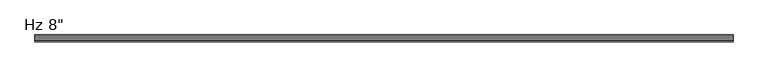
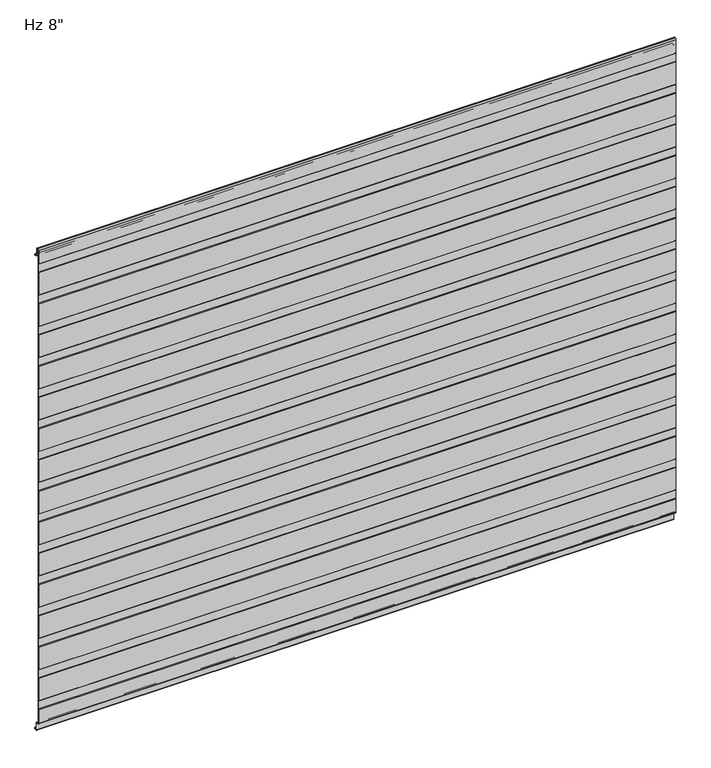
"""IFC4 building model written with IfcOpenShell, lengths in millimetres: plate geometry."""

from ifc_helpers import new_model, si_unit, frame, origin, place, context, project, spatial, polyline, circle_curve, source, transform, mapped, element, save
from ifc_brep_helpers import plane_surface, cylinder_surface, revolved_surface, advanced_brep


def plate_6934a9da(model_context):
    return source(origin(), model_context, "Body", "AdvancedBrep", [
        advanced_brep(
        [(-730.0, -203.2, 966.9508592), (-730.0, -203.2, 1021.5303137), (-730.0, -202.0088405, 1022.6028385), (-730.0, -202.0088405, 1041.5009546), (-730.0, -203.2, 1042.5734794), (-730.0, -203.2, 1097.152934), (-730.0, -202.0088405, 1098.2254588), (-730.0, -202.0088405, 1117.1235749), (-730.0, -203.1999956, 1118.1960958), (-730.0, -203.1999956, 1150.8100652), (-730.0, -200.2227271, 1153.7873337), (-730.0, -199.1806285, 1153.7873337), (-730.0, -196.20336, 1150.8100652), (-730.0, -196.20336, 1136.6216801), (-730.0, -194.6154834, 1135.0338036), (-730.0, -190.2950653, 1135.0338036), (-730.0, -188.7065979, 1133.3929042), (-730.0, -188.7065979, 1131.0482432), (-730.0, -189.7060718, 1131.0482432), (-730.0, -189.7060718, 1133.4253365), (-730.0, -190.2950653, 1134.0338037), (-730.0, -194.6154834, 1134.0338037), (-730.0, -197.20336, 1136.6216801), (-730.0, -197.20336, 1150.8100652), (-730.0, -199.1806285, 1152.7873337), (-730.0, -200.2227271, 1152.7873337), (-730.0, -202.1999956, 1150.8100652), (-730.0, -202.1999956, 1118.6385351), (-730.0, -201.0088405, 1117.5660142), (-730.0, -201.0088405, 1097.7830195), (-730.0, -202.2, 1096.7104947), (-730.0, -202.2, 1043.0159187), (-730.0, -201.0088405, 1041.9433939), (-730.0, -201.0088405, 1022.1603992), (-730.0, -202.2, 1021.0878744), (-730.0, -202.2, 967.3932985), (-730.0, -201.0088405, 966.3207736), (-730.0, -201.0088405, 946.537779), (-730.0, -202.2, 945.4652541), (-730.0, -202.2, 891.7706782), (-730.0, -201.0088405, 890.6981534), (-730.0, -201.0088405, 870.9151587), (-730.0, -202.2, 869.8426339), (-730.0, -202.2, 816.148058), (-730.0, -201.0088405, 815.0755331), (-730.0, -201.0088405, 795.2925384), (-730.0, -202.2, 794.2200136), (-730.0, -202.2, 740.5254377), (-730.0, -201.0088405, 739.4529129), (-730.0, -201.0088405, 719.6699182), (-730.0, -202.2, 718.5973933), (-730.0, -202.2, 664.9028174), (-730.0, -201.0088405, 663.8302926), (-730.0, -201.0088405, 644.0472979), (-730.0, -202.2, 642.9747731), (-730.0, -202.2, 589.2801972), (-730.0, -201.0088405, 588.2076723), (-730.0, -201.0088405, 568.4246776), (-730.0, -202.2, 567.3521528), (-730.0, -202.2, 513.6575769), (-730.0, -201.0088405, 512.5850521), (-730.0, -201.0088405, 492.8020574), (-730.0, -202.2, 491.7295325), (-730.0, -202.2, 438.0349566), (-730.0, -201.0088405, 436.9624318), (-730.0, -201.0088405, 417.1794371), (-730.0, -202.2, 416.1069123), (-730.0, -202.2, 362.4123364), (-730.0, -201.0088405, 361.3398115), (-730.0, -201.0088405, 341.5568169), (-730.0, -202.2, 340.484292), (-730.0, -202.2, 286.7897161), (-730.0, -201.0088405, 285.7171913), (-730.0, -201.0088405, 265.9341966), (-730.0, -202.2, 264.8616718), (-730.0, -202.2, 211.1670958), (-730.0, -201.0088405, 210.094571), (-730.0, -201.0088405, 190.3115763), (-730.0, -202.2, 189.2390515), (-730.0, -202.2, 135.5444756), (-730.0, -201.0088405, 134.4719507), (-730.0, -201.0088405, 114.6889561), (-730.0, -202.2, 113.6164312), (-730.0, -202.2, 59.9218553), (-730.0, -201.0088405, 58.8493305), (-730.0, -201.0088405, 39.0663358), (-730.0, -202.2, 37.993811), (-730.0, -202.2, 5.82722), (-730.0, -200.2227096, 3.8499526), (-730.0, -197.9308258, 3.8499526), (-730.0, -193.9535573, -0.1273159), (-730.0, -193.9535573, -15.7237419), (-730.0, -193.3656807, -16.3116185), (-730.0, -190.294132, -16.3116185), (-730.0, -189.7062555, -15.7237419), (-730.0, -189.7062555, -13.3687064), (-730.0, -188.7062555, -13.3687064), (-730.0, -188.7062555, -15.7237419), (-730.0, -190.294132, -17.3116185), (-730.0, -193.3656807, -17.3116185), (-730.0, -194.9535573, -15.7237419), (-730.0, -194.9535573, -0.1273159), (-730.0, -197.9308258, 2.8499526), (-730.0, -200.2227096, 2.8499526), (-730.0, -203.1999782, 5.8272193), (-730.0, -203.2, 38.4362503), (-730.0, -202.0088405, 39.5087751), (-730.0, -202.0088405, 58.4068912), (-730.0, -203.2, 59.479416), (-730.0, -203.2, 114.0588705), (-730.0, -202.0088405, 115.1313954), (-730.0, -202.0088405, 134.0295114), (-730.0, -203.2, 135.1020363), (-730.0, -203.2, 189.6814908), (-730.0, -202.0088405, 190.7540156), (-730.0, -202.0088405, 209.6521317), (-730.0, -203.2, 210.7246565), (-730.0, -203.2, 265.3041111), (-730.0, -202.0088405, 266.3766359), (-730.0, -202.0088405, 285.274752), (-730.0, -203.2, 286.3472768), (-730.0, -203.2, 340.9267313), (-730.0, -202.0088405, 341.9992562), (-730.0, -202.0088405, 360.8973722), (-730.0, -203.2, 361.9698971), (-730.0, -203.2, 416.5493516), (-730.0, -202.0088405, 417.6218764), (-730.0, -202.0088405, 436.5199925), (-730.0, -203.2, 437.5925173), (-730.0, -203.2, 492.1719719), (-730.0, -202.0088405, 493.2444967), (-730.0, -202.0088405, 512.1426127), (-730.0, -203.2, 513.2151376), (-730.0, -203.2, 567.7945921), (-730.0, -202.0088405, 568.867117), (-730.0, -202.0088405, 587.765233), (-730.0, -203.2, 588.8377578), (-730.0, -203.2, 643.4172124), (-730.0, -202.0088405, 644.4897372), (-730.0, -202.0088405, 663.3878533), (-730.0, -203.2, 664.4603781), (-730.0, -203.2, 719.0398327), (-730.0, -202.0088405, 720.1123575), (-730.0, -202.0088405, 739.0104735), (-730.0, -203.2, 740.0829984), (-730.0, -203.2, 794.6624529), (-730.0, -202.0088405, 795.7349778), (-730.0, -202.0088405, 814.6330938), (-730.0, -203.2, 815.7056186), (-730.0, -203.2, 870.2850732), (-730.0, -202.0088405, 871.357598), (-730.0, -202.0088405, 890.2557141), (-730.0, -203.2, 891.3282389), (-730.0, -203.2, 945.9076934), (-730.0, -202.0088405, 946.9802183), (-730.0, -202.0088405, 965.8783343), (730.0, -203.2, 966.9508592), (730.0, -202.0088405, 965.8783343), (730.0, -202.0088405, 946.9802183), (730.0, -203.2, 945.9076934), (730.0, -203.2, 891.3282389), (730.0, -202.0088405, 890.2557141), (730.0, -202.0088405, 871.357598), (730.0, -203.2, 870.2850732), (730.0, -203.2, 815.7056186), (730.0, -202.0088405, 814.6330938), (730.0, -202.0088405, 795.7349778), (730.0, -203.2, 794.6624529), (730.0, -203.2, 740.0829984), (730.0, -202.0088405, 739.0104735), (730.0, -202.0088405, 720.1123575), (730.0, -203.2, 719.0398327), (730.0, -203.2, 664.4603781), (730.0, -202.0088405, 663.3878533), (730.0, -202.0088405, 644.4897372), (730.0, -203.2, 643.4172124), (730.0, -203.2, 588.8377578), (730.0, -202.0088405, 587.765233), (730.0, -202.0088405, 568.867117), (730.0, -203.2, 567.7945921), (730.0, -203.2, 513.2151376), (730.0, -202.0088405, 512.1426127), (730.0, -202.0088405, 493.2444967), (730.0, -203.2, 492.1719719), (730.0, -203.2, 437.5925173), (730.0, -202.0088405, 436.5199925), (730.0, -202.0088405, 417.6218764), (730.0, -203.2, 416.5493516), (730.0, -203.2, 361.9698971), (730.0, -202.0088405, 360.8973722), (730.0, -202.0088405, 341.9992562), (730.0, -203.2, 340.9267313), (730.0, -203.2, 286.3472768), (730.0, -202.0088405, 285.274752), (730.0, -202.0088405, 266.3766359), (730.0, -203.2, 265.3041111), (730.0, -203.2, 210.7246565), (730.0, -202.0088405, 209.6521317), (730.0, -202.0088405, 190.7540156), (730.0, -203.2, 189.6814908), (730.0, -203.2, 135.1020363), (730.0, -202.0088405, 134.0295114), (730.0, -202.0088405, 115.1313954), (730.0, -203.2, 114.0588705), (730.0, -203.2, 59.479416), (730.0, -202.0088405, 58.4068912), (730.0, -202.0088405, 39.5087751), (730.0, -203.2, 38.4362503), (730.0, -203.2, 5.8272193), (730.0, -200.2227096, 2.8499526), (730.0, -197.9308258, 2.8499526), (730.0, -194.9535573, -0.1273159), (730.0, -194.9535573, -15.7237419), (730.0, -193.3656807, -17.3116185), (730.0, -190.294132, -17.3116185), (730.0, -188.7062555, -15.7237419), (730.0, -188.7062555, -13.3687064), (730.0, -189.7062555, -13.3687064), (730.0, -189.7062555, -15.7237419), (730.0, -190.294132, -16.3116185), (730.0, -193.3656807, -16.3116185), (730.0, -193.9535573, -15.7237419), (730.0, -193.9535573, -0.1273159), (730.0, -197.9308258, 3.8499526), (730.0, -200.2227096, 3.8499526), (730.0, -202.1999782, 5.82722), (730.0, -202.2, 37.993811), (730.0, -201.0088405, 39.0663358), (730.0, -201.0088405, 58.8493305), (730.0, -202.2, 59.9218553), (730.0, -202.2, 113.6164312), (730.0, -201.0088405, 114.6889561), (730.0, -201.0088405, 134.4719507), (730.0, -202.2, 135.5444756), (730.0, -202.2, 189.2390515), (730.0, -201.0088405, 190.3115763), (730.0, -201.0088405, 210.094571), (730.0, -202.2, 211.1670958), (730.0, -202.2, 264.8616718), (730.0, -201.0088405, 265.9341966), (730.0, -201.0088405, 285.7171913), (730.0, -202.2, 286.7897161), (730.0, -202.2, 340.484292), (730.0, -201.0088405, 341.5568169), (730.0, -201.0088405, 361.3398115), (730.0, -202.2, 362.4123364), (730.0, -202.2, 416.1069123), (730.0, -201.0088405, 417.1794371), (730.0, -201.0088405, 436.9624318), (730.0, -202.2, 438.0349566), (730.0, -202.2, 491.7295325), (730.0, -201.0088405, 492.8020574), (730.0, -201.0088405, 512.5850521), (730.0, -202.2, 513.6575769), (730.0, -202.2, 567.3521528), (730.0, -201.0088405, 568.4246776), (730.0, -201.0088405, 588.2076723), (730.0, -202.2, 589.2801972), (730.0, -202.2, 642.9747731), (730.0, -201.0088405, 644.0472979), (730.0, -201.0088405, 663.8302926), (730.0, -202.2, 664.9028174), (730.0, -202.2, 718.5973933), (730.0, -201.0088405, 719.6699182), (730.0, -201.0088405, 739.4529129), (730.0, -202.2, 740.5254377), (730.0, -202.2, 794.2200136), (730.0, -201.0088405, 795.2925384), (730.0, -201.0088405, 815.0755331), (730.0, -202.2, 816.148058), (730.0, -202.2, 869.8426339), (730.0, -201.0088405, 870.9151587), (730.0, -201.0088405, 890.6981534), (730.0, -202.2, 891.7706782), (730.0, -202.2, 945.4652541), (730.0, -201.0088405, 946.537779), (730.0, -201.0088405, 966.3207736), (730.0, -202.2, 967.3932985), (730.0, -202.2, 1021.0878744), (730.0, -201.0088405, 1022.1603992), (730.0, -201.0088405, 1041.9433939), (730.0, -202.2, 1043.0159187), (730.0, -202.2, 1096.7104947), (730.0, -201.0088405, 1097.7830195), (730.0, -201.0088405, 1117.5660142), (730.0, -202.1999956, 1118.6385351), (730.0, -202.1999956, 1150.8100652), (730.0, -200.2227271, 1152.7873337), (730.0, -199.1806285, 1152.7873337), (730.0, -197.20336, 1150.8100652), (730.0, -197.20336, 1136.6216801), (730.0, -194.6154834, 1134.0338036), (730.0, -190.2950653, 1134.0338037), (730.0, -189.7060718, 1133.4253365), (730.0, -189.7060718, 1131.0482432), (730.0, -188.7065979, 1131.0482432), (730.0, -188.7065979, 1133.3929042), (730.0, -190.2950653, 1135.0338037), (730.0, -194.6154834, 1135.0338036), (730.0, -196.20336, 1136.6216801), (730.0, -196.20336, 1150.8100652), (730.0, -199.1806285, 1153.7873337), (730.0, -200.2227271, 1153.7873337), (730.0, -203.1999956, 1150.8100652), (730.0, -203.1999956, 1118.1960958), (730.0, -202.0088405, 1117.1235749), (730.0, -202.0088405, 1098.2254588), (730.0, -203.2, 1097.152934), (730.0, -203.2, 1042.5734794), (730.0, -202.0088405, 1041.5009546), (730.0, -202.0088405, 1022.6028385), (730.0, -203.2, 1021.5303137)],
        [
            (0, 1),
            (1, 2),
            (2, 3),
            (3, 4),
            (4, 5),
            (5, 6),
            (6, 7),
            (7, 8),
            (8, 9),
            (9, 10, circle_curve(frame((-730.0, -200.2227271, 1150.8100652), z_axis=(-1.0, 0.0, 0.0), x_axis=(0.0, 0.0, -1.0)), 2.9772685)),
            (10, 11),
            (11, 12, circle_curve(frame((-730.0, -199.1806285, 1150.8100652), z_axis=(-1.0, 0.0, 0.0), x_axis=(0.0, 0.0, -1.0)), 2.9772685)),
            (12, 13),
            (13, 14, circle_curve(frame((-730.0, -194.6154834, 1136.6216801), z_axis=(1.0, 0.0, 0.0), x_axis=(0.0, 0.0, -1.0)), 1.5878765)),
            (14, 15),
            (15, 16, circle_curve(frame((-730.0, -190.2950653, 1133.4444985), z_axis=(-1.0, 0.0, 0.0), x_axis=(0.0, 0.0, -1.0)), 1.5893052)),
            (16, 17),
            (17, 18),
            (18, 19),
            (19, 20, circle_curve(frame((-730.0, -190.2950653, 1133.4444985), z_axis=(1.0, 0.0, 0.0), x_axis=(0.0, 0.0, -1.0)), 0.5893052)),
            (20, 21),
            (21, 22, circle_curve(frame((-730.0, -194.6154834, 1136.6216801), z_axis=(-1.0, 0.0, 0.0), x_axis=(0.0, 0.0, -1.0)), 2.5878765)),
            (22, 23),
            (23, 24, circle_curve(frame((-730.0, -199.1806285, 1150.8100652), z_axis=(1.0, 0.0, 0.0), x_axis=(0.0, 0.0, -1.0)), 1.9772685)),
            (24, 25),
            (25, 26, circle_curve(frame((-730.0, -200.2227271, 1150.8100652), z_axis=(1.0, 0.0, 0.0), x_axis=(0.0, 0.0, -1.0)), 1.9772685)),
            (26, 27),
            (27, 28),
            (28, 29),
            (29, 30),
            (30, 31),
            (31, 32),
            (32, 33),
            (33, 34),
            (34, 35),
            (35, 36),
            (36, 37),
            (37, 38),
            (38, 39),
            (39, 40),
            (40, 41),
            (41, 42),
            (42, 43),
            (43, 44),
            (44, 45),
            (45, 46),
            (46, 47),
            (47, 48),
            (48, 49),
            (49, 50),
            (50, 51),
            (51, 52),
            (52, 53),
            (53, 54),
            (54, 55),
            (55, 56),
            (56, 57),
            (57, 58),
            (58, 59),
            (59, 60),
            (60, 61),
            (61, 62),
            (62, 63),
            (63, 64),
            (64, 65),
            (65, 66),
            (66, 67),
            (67, 68),
            (68, 69),
            (69, 70),
            (70, 71),
            (71, 72),
            (72, 73),
            (73, 74),
            (74, 75),
            (75, 76),
            (76, 77),
            (77, 78),
            (78, 79),
            (79, 80),
            (80, 81),
            (81, 82),
            (82, 83),
            (83, 84),
            (84, 85),
            (85, 86),
            (86, 87),
            (87, 88, circle_curve(frame((-730.0, -200.2227096, 5.8272212), z_axis=(1.0, 0.0, 0.0), x_axis=(0.0, 0.0, -1.0)), 1.9772685)),
            (88, 89),
            (89, 90, circle_curve(frame((-730.0, -197.9308258, -0.1273159), z_axis=(-1.0, 0.0, 0.0), x_axis=(0.0, 0.0, -1.0)), 3.9772685)),
            (90, 91),
            (91, 92, circle_curve(frame((-730.0, -193.3656807, -15.7237419), z_axis=(1.0, 0.0, 0.0), x_axis=(0.0, 0.0, -1.0)), 0.5878765)),
            (92, 93),
            (93, 94, circle_curve(frame((-730.0, -190.294132, -15.7237419), z_axis=(1.0, 0.0, 0.0), x_axis=(0.0, 0.0, -1.0)), 0.5878765)),
            (94, 95),
            (95, 96),
            (96, 97),
            (97, 98, circle_curve(frame((-730.0, -190.294132, -15.7237419), z_axis=(-1.0, 0.0, 0.0), x_axis=(0.0, 0.0, -1.0)), 1.5878765)),
            (98, 99),
            (99, 100, circle_curve(frame((-730.0, -193.3656807, -15.7237419), z_axis=(-1.0, 0.0, 0.0), x_axis=(0.0, 0.0, -1.0)), 1.5878765)),
            (100, 101),
            (101, 102, circle_curve(frame((-730.0, -197.9308258, -0.1273159), z_axis=(1.0, 0.0, 0.0), x_axis=(0.0, 0.0, -1.0)), 2.9772685)),
            (102, 103),
            (103, 104, circle_curve(frame((-730.0, -200.2227096, 5.8272211), z_axis=(-1.0, 0.0, 0.0), x_axis=(0.0, 0.0, -1.0)), 2.9772685)),
            (104, 105),
            (105, 106),
            (106, 107),
            (107, 108),
            (108, 109),
            (109, 110),
            (110, 111),
            (111, 112),
            (112, 113),
            (113, 114),
            (114, 115),
            (115, 116),
            (116, 117),
            (117, 118),
            (118, 119),
            (119, 120),
            (120, 121),
            (121, 122),
            (122, 123),
            (123, 124),
            (124, 125),
            (125, 126),
            (126, 127),
            (127, 128),
            (128, 129),
            (129, 130),
            (130, 131),
            (131, 132),
            (132, 133),
            (133, 134),
            (134, 135),
            (135, 136),
            (136, 137),
            (137, 138),
            (138, 139),
            (139, 140),
            (140, 141),
            (141, 142),
            (142, 143),
            (143, 144),
            (144, 145),
            (145, 146),
            (146, 147),
            (147, 148),
            (148, 149),
            (149, 150),
            (150, 151),
            (151, 152),
            (152, 153),
            (153, 154),
            (154, 155),
            (155, 0),
            (156, 157),
            (157, 158),
            (158, 159),
            (159, 160),
            (160, 161),
            (161, 162),
            (162, 163),
            (163, 164),
            (164, 165),
            (165, 166),
            (166, 167),
            (167, 168),
            (168, 169),
            (169, 170),
            (170, 171),
            (171, 172),
            (172, 173),
            (173, 174),
            (174, 175),
            (175, 176),
            (176, 177),
            (177, 178),
            (178, 179),
            (179, 180),
            (180, 181),
            (181, 182),
            (182, 183),
            (183, 184),
            (184, 185),
            (185, 186),
            (186, 187),
            (187, 188),
            (188, 189),
            (189, 190),
            (190, 191),
            (191, 192),
            (192, 193),
            (193, 194),
            (194, 195),
            (195, 196),
            (196, 197),
            (197, 198),
            (198, 199),
            (199, 200),
            (200, 201),
            (201, 202),
            (202, 203),
            (203, 204),
            (204, 205),
            (205, 206),
            (206, 207),
            (207, 208),
            (208, 209, circle_curve(frame((730.0, -200.2227096, 5.8272211), z_axis=(1.0, 0.0, 0.0), x_axis=(0.0, 0.0, -1.0)), 2.9772685)),
            (209, 210),
            (210, 211, circle_curve(frame((730.0, -197.9308258, -0.1273159), z_axis=(-1.0, 0.0, 0.0), x_axis=(0.0, 0.0, -1.0)), 2.9772685)),
            (211, 212),
            (212, 213, circle_curve(frame((730.0, -193.3656807, -15.7237419), z_axis=(1.0, 0.0, 0.0), x_axis=(0.0, 0.0, -1.0)), 1.5878765)),
            (213, 214),
            (214, 215, circle_curve(frame((730.0, -190.294132, -15.7237419), z_axis=(1.0, 0.0, 0.0), x_axis=(0.0, 0.0, -1.0)), 1.5878765)),
            (215, 216),
            (216, 217),
            (217, 218),
            (218, 219, circle_curve(frame((730.0, -190.294132, -15.7237419), z_axis=(-1.0, 0.0, 0.0), x_axis=(0.0, 0.0, -1.0)), 0.5878765)),
            (219, 220),
            (220, 221, circle_curve(frame((730.0, -193.3656807, -15.7237419), z_axis=(-1.0, 0.0, 0.0), x_axis=(0.0, 0.0, -1.0)), 0.5878765)),
            (221, 222),
            (222, 223, circle_curve(frame((730.0, -197.9308258, -0.1273159), z_axis=(1.0, 0.0, 0.0), x_axis=(0.0, 0.0, -1.0)), 3.9772685)),
            (223, 224),
            (224, 225, circle_curve(frame((730.0, -200.2227096, 5.8272212), z_axis=(-1.0, 0.0, 0.0), x_axis=(0.0, 0.0, -1.0)), 1.9772685)),
            (225, 226),
            (226, 227),
            (227, 228),
            (228, 229),
            (229, 230),
            (230, 231),
            (231, 232),
            (232, 233),
            (233, 234),
            (234, 235),
            (235, 236),
            (236, 237),
            (237, 238),
            (238, 239),
            (239, 240),
            (240, 241),
            (241, 242),
            (242, 243),
            (243, 244),
            (244, 245),
            (245, 246),
            (246, 247),
            (247, 248),
            (248, 249),
            (249, 250),
            (250, 251),
            (251, 252),
            (252, 253),
            (253, 254),
            (254, 255),
            (255, 256),
            (256, 257),
            (257, 258),
            (258, 259),
            (259, 260),
            (260, 261),
            (261, 262),
            (262, 263),
            (263, 264),
            (264, 265),
            (265, 266),
            (266, 267),
            (267, 268),
            (268, 269),
            (269, 270),
            (270, 271),
            (271, 272),
            (272, 273),
            (273, 274),
            (274, 275),
            (275, 276),
            (276, 277),
            (277, 278),
            (278, 279),
            (279, 280),
            (280, 281),
            (281, 282),
            (282, 283),
            (283, 284),
            (284, 285),
            (285, 286),
            (286, 287, circle_curve(frame((730.0, -200.2227271, 1150.8100652), z_axis=(-1.0, 0.0, 0.0), x_axis=(0.0, 0.0, -1.0)), 1.9772685)),
            (287, 288),
            (288, 289, circle_curve(frame((730.0, -199.1806285, 1150.8100652), z_axis=(-1.0, 0.0, 0.0), x_axis=(0.0, 0.0, -1.0)), 1.9772685)),
            (289, 290),
            (290, 291, circle_curve(frame((730.0, -194.6154834, 1136.6216801), z_axis=(1.0, 0.0, 0.0), x_axis=(0.0, 0.0, -1.0)), 2.5878765)),
            (291, 292),
            (292, 293, circle_curve(frame((730.0, -190.2950653, 1133.4444985), z_axis=(-1.0, 0.0, 0.0), x_axis=(0.0, 0.0, -1.0)), 0.5893052)),
            (293, 294),
            (294, 295),
            (295, 296),
            (296, 297, circle_curve(frame((730.0, -190.2950653, 1133.4444985), z_axis=(1.0, 0.0, 0.0), x_axis=(0.0, 0.0, -1.0)), 1.5893052)),
            (297, 298),
            (298, 299, circle_curve(frame((730.0, -194.6154834, 1136.6216801), z_axis=(-1.0, 0.0, 0.0), x_axis=(0.0, 0.0, -1.0)), 1.5878765)),
            (299, 300),
            (300, 301, circle_curve(frame((730.0, -199.1806285, 1150.8100652), z_axis=(1.0, 0.0, 0.0), x_axis=(0.0, 0.0, -1.0)), 2.9772685)),
            (301, 302),
            (302, 303, circle_curve(frame((730.0, -200.2227271, 1150.8100652), z_axis=(1.0, 0.0, 0.0), x_axis=(0.0, 0.0, -1.0)), 2.9772685)),
            (303, 304),
            (304, 305),
            (305, 306),
            (306, 307),
            (307, 308),
            (308, 309),
            (309, 310),
            (310, 311),
            (311, 156),
            (155, 157),
            (156, 0),
            (154, 158),
            (153, 159),
            (152, 160),
            (151, 161),
            (150, 162),
            (149, 163),
            (148, 164),
            (147, 165),
            (146, 166),
            (145, 167),
            (144, 168),
            (143, 169),
            (142, 170),
            (141, 171),
            (140, 172),
            (139, 173),
            (138, 174),
            (137, 175),
            (136, 176),
            (135, 177),
            (134, 178),
            (133, 179),
            (132, 180),
            (131, 181),
            (130, 182),
            (129, 183),
            (128, 184),
            (127, 185),
            (126, 186),
            (125, 187),
            (124, 188),
            (123, 189),
            (122, 190),
            (121, 191),
            (120, 192),
            (119, 193),
            (118, 194),
            (117, 195),
            (116, 196),
            (115, 197),
            (114, 198),
            (113, 199),
            (112, 200),
            (111, 201),
            (110, 202),
            (109, 203),
            (108, 204),
            (107, 205),
            (106, 206),
            (105, 207),
            (104, 208),
            (103, 209),
            (102, 210),
            (101, 211),
            (100, 212),
            (99, 213),
            (98, 214),
            (97, 215),
            (96, 216),
            (95, 217),
            (94, 218),
            (93, 219),
            (92, 220),
            (91, 221),
            (90, 222),
            (89, 223),
            (88, 224),
            (87, 225),
            (86, 226),
            (85, 227),
            (84, 228),
            (83, 229),
            (82, 230),
            (81, 231),
            (80, 232),
            (79, 233),
            (78, 234),
            (77, 235),
            (76, 236),
            (75, 237),
            (74, 238),
            (73, 239),
            (72, 240),
            (71, 241),
            (70, 242),
            (69, 243),
            (68, 244),
            (67, 245),
            (66, 246),
            (65, 247),
            (64, 248),
            (63, 249),
            (62, 250),
            (61, 251),
            (60, 252),
            (59, 253),
            (58, 254),
            (57, 255),
            (56, 256),
            (55, 257),
            (54, 258),
            (53, 259),
            (52, 260),
            (51, 261),
            (50, 262),
            (49, 263),
            (48, 264),
            (47, 265),
            (46, 266),
            (45, 267),
            (44, 268),
            (43, 269),
            (42, 270),
            (41, 271),
            (40, 272),
            (39, 273),
            (38, 274),
            (37, 275),
            (36, 276),
            (35, 277),
            (34, 278),
            (33, 279),
            (32, 280),
            (31, 281),
            (30, 282),
            (29, 283),
            (28, 284),
            (27, 285),
            (26, 286),
            (25, 287),
            (24, 288),
            (23, 289),
            (22, 290),
            (21, 291),
            (20, 292),
            (19, 293),
            (18, 294),
            (17, 295),
            (16, 296),
            (15, 297),
            (14, 298),
            (13, 299),
            (12, 300),
            (11, 301),
            (10, 302),
            (9, 303),
            (8, 304),
            (7, 305),
            (6, 306),
            (5, 307),
            (4, 308),
            (3, 309),
            (2, 310),
            (1, 311),
        ],
        [
            plane_surface(frame((-730.0, -203.2, 576.2625), z_axis=(-1.0, 0.0, 0.0), x_axis=(0.0, -1.0, 0.0))),
            plane_surface(frame((730.0, -203.2, 576.2625), z_axis=(1.0, 0.0, 0.0), x_axis=(0.0, -1.0, 0.0))),
            plane_surface(frame((-730.0, -203.2, 966.9508592), z_axis=(0.0, -0.6691306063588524, -0.7431448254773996), x_axis=(1.0, 0.0, 0.0))),
            plane_surface(frame((-730.0, -202.0088405, 965.8783343), z_axis=(0.0, -1.0, 0.0), x_axis=(1.0, 0.0, 0.0))),
            plane_surface(frame((-730.0, -202.0088405, 946.9802183), z_axis=(0.0, -0.6691306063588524, 0.7431448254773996), x_axis=(1.0, 0.0, 0.0))),
            plane_surface(frame((-730.0, -203.2, 945.9076934), z_axis=(0.0, -1.0, 0.0), x_axis=(1.0, 0.0, 0.0))),
            plane_surface(frame((-730.0, -203.2, 891.3282389), z_axis=(0.0, -0.6691306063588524, -0.7431448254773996), x_axis=(1.0, 0.0, 0.0))),
            plane_surface(frame((-730.0, -202.0088405, 890.2557141), z_axis=(0.0, -1.0, 0.0), x_axis=(1.0, 0.0, 0.0))),
            plane_surface(frame((-730.0, -202.0088405, 871.357598), z_axis=(0.0, -0.6691306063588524, 0.7431448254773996), x_axis=(1.0, 0.0, 0.0))),
            plane_surface(frame((-730.0, -203.2, 870.2850732), z_axis=(0.0, -1.0, 0.0), x_axis=(1.0, 0.0, 0.0))),
            plane_surface(frame((-730.0, -203.2, 815.7056186), z_axis=(0.0, -0.6691306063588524, -0.7431448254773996), x_axis=(1.0, 0.0, 0.0))),
            plane_surface(frame((-730.0, -202.0088405, 814.6330938), z_axis=(0.0, -1.0, 0.0), x_axis=(1.0, 0.0, 0.0))),
            plane_surface(frame((-730.0, -202.0088405, 795.7349778), z_axis=(0.0, -0.6691306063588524, 0.7431448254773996), x_axis=(1.0, 0.0, 0.0))),
            plane_surface(frame((-730.0, -203.2, 794.6624529), z_axis=(0.0, -1.0, 0.0), x_axis=(1.0, 0.0, 0.0))),
            plane_surface(frame((-730.0, -203.2, 740.0829984), z_axis=(0.0, -0.6691306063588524, -0.7431448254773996), x_axis=(1.0, 0.0, 0.0))),
            plane_surface(frame((-730.0, -202.0088405, 739.0104735), z_axis=(0.0, -1.0, 0.0), x_axis=(1.0, 0.0, 0.0))),
            plane_surface(frame((-730.0, -202.0088405, 720.1123575), z_axis=(0.0, -0.6691306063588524, 0.7431448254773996), x_axis=(1.0, 0.0, 0.0))),
            plane_surface(frame((-730.0, -203.2, 719.0398327), z_axis=(0.0, -1.0, 0.0), x_axis=(1.0, 0.0, 0.0))),
            plane_surface(frame((-730.0, -203.2, 664.4603781), z_axis=(0.0, -0.6691306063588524, -0.7431448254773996), x_axis=(1.0, 0.0, 0.0))),
            plane_surface(frame((-730.0, -202.0088405, 663.3878533), z_axis=(0.0, -1.0, 0.0), x_axis=(1.0, 0.0, 0.0))),
            plane_surface(frame((-730.0, -202.0088405, 644.4897372), z_axis=(0.0, -0.6691306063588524, 0.7431448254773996), x_axis=(1.0, 0.0, 0.0))),
            plane_surface(frame((-730.0, -203.2, 643.4172124), z_axis=(0.0, -1.0, 0.0), x_axis=(1.0, 0.0, 0.0))),
            plane_surface(frame((-730.0, -203.2, 588.8377578), z_axis=(0.0, -0.6691306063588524, -0.7431448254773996), x_axis=(1.0, 0.0, 0.0))),
            plane_surface(frame((-730.0, -202.0088405, 587.765233), z_axis=(0.0, -1.0, 0.0), x_axis=(1.0, 0.0, 0.0))),
            plane_surface(frame((-730.0, -202.0088405, 568.867117), z_axis=(0.0, -0.6691306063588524, 0.7431448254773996), x_axis=(1.0, 0.0, 0.0))),
            plane_surface(frame((-730.0, -203.2, 567.7945921), z_axis=(0.0, -1.0, 0.0), x_axis=(1.0, 0.0, 0.0))),
            plane_surface(frame((-730.0, -203.2, 513.2151376), z_axis=(0.0, -0.6691306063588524, -0.7431448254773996), x_axis=(1.0, 0.0, 0.0))),
            plane_surface(frame((-730.0, -202.0088405, 512.1426127), z_axis=(0.0, -1.0, 0.0), x_axis=(1.0, 0.0, 0.0))),
            plane_surface(frame((-730.0, -202.0088405, 493.2444967), z_axis=(0.0, -0.6691306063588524, 0.7431448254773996), x_axis=(1.0, 0.0, 0.0))),
            plane_surface(frame((-730.0, -203.2, 492.1719719), z_axis=(0.0, -1.0, 0.0), x_axis=(1.0, 0.0, 0.0))),
            plane_surface(frame((-730.0, -203.2, 437.5925173), z_axis=(0.0, -0.6691306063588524, -0.7431448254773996), x_axis=(1.0, 0.0, 0.0))),
            plane_surface(frame((-730.0, -202.0088405, 436.5199925), z_axis=(0.0, -1.0, 0.0), x_axis=(1.0, 0.0, 0.0))),
            plane_surface(frame((-730.0, -202.0088405, 417.6218764), z_axis=(0.0, -0.6691306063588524, 0.7431448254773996), x_axis=(1.0, 0.0, 0.0))),
            plane_surface(frame((-730.0, -203.2, 416.5493516), z_axis=(0.0, -1.0, 0.0), x_axis=(1.0, 0.0, 0.0))),
            plane_surface(frame((-730.0, -203.2, 361.9698971), z_axis=(0.0, -0.6691306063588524, -0.7431448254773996), x_axis=(1.0, 0.0, 0.0))),
            plane_surface(frame((-730.0, -202.0088405, 360.8973722), z_axis=(0.0, -1.0, 0.0), x_axis=(1.0, 0.0, 0.0))),
            plane_surface(frame((-730.0, -202.0088405, 341.9992562), z_axis=(0.0, -0.6691306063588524, 0.7431448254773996), x_axis=(1.0, 0.0, 0.0))),
            plane_surface(frame((-730.0, -203.2, 340.9267313), z_axis=(0.0, -1.0, 0.0), x_axis=(1.0, 0.0, 0.0))),
            plane_surface(frame((-730.0, -203.2, 286.3472768), z_axis=(0.0, -0.6691306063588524, -0.7431448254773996), x_axis=(1.0, 0.0, 0.0))),
            plane_surface(frame((-730.0, -202.0088405, 285.274752), z_axis=(0.0, -1.0, 0.0), x_axis=(1.0, 0.0, 0.0))),
            plane_surface(frame((-730.0, -202.0088405, 266.3766359), z_axis=(0.0, -0.6691306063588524, 0.7431448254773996), x_axis=(1.0, 0.0, 0.0))),
            plane_surface(frame((-730.0, -203.2, 265.3041111), z_axis=(0.0, -1.0, 0.0), x_axis=(1.0, 0.0, 0.0))),
            plane_surface(frame((-730.0, -203.2, 210.7246565), z_axis=(0.0, -0.6691306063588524, -0.7431448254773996), x_axis=(1.0, 0.0, 0.0))),
            plane_surface(frame((-730.0, -202.0088405, 209.6521317), z_axis=(0.0, -1.0, 0.0), x_axis=(1.0, 0.0, 0.0))),
            plane_surface(frame((-730.0, -202.0088405, 190.7540156), z_axis=(0.0, -0.6691306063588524, 0.7431448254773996), x_axis=(1.0, 0.0, 0.0))),
            plane_surface(frame((-730.0, -203.2, 189.6814908), z_axis=(0.0, -1.0, 0.0), x_axis=(1.0, 0.0, 0.0))),
            plane_surface(frame((-730.0, -203.2, 135.1020363), z_axis=(0.0, -0.6691306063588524, -0.7431448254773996), x_axis=(1.0, 0.0, 0.0))),
            plane_surface(frame((-730.0, -202.0088405, 134.0295114), z_axis=(0.0, -1.0, 0.0), x_axis=(1.0, 0.0, 0.0))),
            plane_surface(frame((-730.0, -202.0088405, 115.1313954), z_axis=(0.0, -0.6691306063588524, 0.7431448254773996), x_axis=(1.0, 0.0, 0.0))),
            plane_surface(frame((-730.0, -203.2, 114.0588705), z_axis=(0.0, -1.0, 0.0), x_axis=(1.0, 0.0, 0.0))),
            plane_surface(frame((-730.0, -203.2, 59.479416), z_axis=(0.0, -0.6691306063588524, -0.7431448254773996), x_axis=(1.0, 0.0, 0.0))),
            plane_surface(frame((-730.0, -202.0088405, 58.4068912), z_axis=(0.0, -1.0, 0.0), x_axis=(1.0, 0.0, 0.0))),
            plane_surface(frame((-730.0, -202.0088405, 39.5087751), z_axis=(0.0, -0.6691306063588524, 0.7431448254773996), x_axis=(1.0, 0.0, 0.0))),
            plane_surface(frame((-730.0, -203.2, 38.4362503), z_axis=(0.0, -1.0, 0.0), x_axis=(1.0, 0.0, 0.0))),
            cylinder_surface(frame((-730.0, -200.2227096, 5.8272211), z_axis=(-1.0, 0.0, 0.0), x_axis=(0.0, 0.0, -1.0)), 2.9772685),
            plane_surface(frame((-730.0, -200.2227096, 2.8499526), z_axis=(0.0, 0.0, -1.0), x_axis=(1.0, 0.0, 0.0))),
            revolved_surface(polyline([(730.0, -197.9308258, -3.1045844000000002), (-730.0, -197.9308258, -3.1045844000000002)]), (-730.0, -197.9308258, -0.1273159), (1.0, 0.0, 0.0)),
            plane_surface(frame((-730.0, -194.9535573, -0.1273159), z_axis=(0.0, -1.0, 0.0), x_axis=(1.0, 0.0, 0.0))),
            cylinder_surface(frame((-730.0, -193.3656807, -15.7237419), z_axis=(-1.0, 0.0, 0.0), x_axis=(0.0, 0.0, -1.0)), 1.5878765),
            plane_surface(frame((-730.0, -193.3656807, -17.3116185), z_axis=(0.0, 0.0, -1.0), x_axis=(1.0, 0.0, 0.0))),
            cylinder_surface(frame((-730.0, -190.294132, -15.7237419), z_axis=(-1.0, 0.0, 0.0), x_axis=(0.0, 0.0, -1.0)), 1.5878765),
            plane_surface(frame((-730.0, -188.7062555, -15.7237419), z_axis=(0.0, 1.0, 0.0), x_axis=(1.0, 0.0, 0.0))),
            plane_surface(frame((-730.0, -188.7062555, -13.3687064), z_axis=(0.0, 0.0, 1.0), x_axis=(1.0, 0.0, 0.0))),
            plane_surface(frame((-730.0, -189.7062555, -13.3687064), z_axis=(0.0, -1.0, 0.0), x_axis=(1.0, 0.0, 0.0))),
            revolved_surface(polyline([(730.0, -190.294132, -16.3116184), (-730.0, -190.294132, -16.3116184)]), (-730.0, -190.294132, -15.7237419), (1.0, 0.0, 0.0)),
            plane_surface(frame((-730.0, -190.294132, -16.3116185), z_axis=(0.0, 0.0, 1.0), x_axis=(1.0, 0.0, 0.0))),
            revolved_surface(polyline([(730.0, -193.3656807, -16.3116184), (-730.0, -193.3656807, -16.3116184)]), (-730.0, -193.3656807, -15.7237419), (1.0, 0.0, 0.0)),
            plane_surface(frame((-730.0, -193.9535573, -15.7237419), z_axis=(0.0, 1.0, 0.0), x_axis=(1.0, 0.0, 0.0))),
            cylinder_surface(frame((-730.0, -197.9308258, -0.1273159), z_axis=(-1.0, 0.0, 0.0), x_axis=(0.0, 0.0, -1.0)), 3.9772685),
            plane_surface(frame((-730.0, -197.9308258, 3.8499526), z_axis=(0.0, 0.0, 1.0), x_axis=(1.0, 0.0, 0.0))),
            revolved_surface(polyline([(730.0, -200.2227096, 3.8499527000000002), (-730.0, -200.2227096, 3.8499527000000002)]), (-730.0, -200.2227096, 5.8272212), (1.0, 0.0, 0.0)),
            plane_surface(frame((-730.0, -202.2, 5.82722), z_axis=(0.0, 1.0, 0.0), x_axis=(1.0, 0.0, 0.0))),
            plane_surface(frame((-730.0, -202.2, 37.993811), z_axis=(0.0, 0.6691306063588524, -0.7431448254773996), x_axis=(1.0, 0.0, 0.0))),
            plane_surface(frame((-730.0, -201.0088405, 39.0663358), z_axis=(0.0, 1.0, 0.0), x_axis=(1.0, 0.0, 0.0))),
            plane_surface(frame((-730.0, -201.0088405, 58.8493305), z_axis=(0.0, 0.6691306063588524, 0.7431448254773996), x_axis=(1.0, 0.0, 0.0))),
            plane_surface(frame((-730.0, -202.2, 59.9218553), z_axis=(0.0, 1.0, 0.0), x_axis=(1.0, 0.0, 0.0))),
            plane_surface(frame((-730.0, -202.2, 113.6164312), z_axis=(0.0, 0.6691306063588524, -0.7431448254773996), x_axis=(1.0, 0.0, 0.0))),
            plane_surface(frame((-730.0, -201.0088405, 114.6889561), z_axis=(0.0, 1.0, 0.0), x_axis=(1.0, 0.0, 0.0))),
            plane_surface(frame((-730.0, -201.0088405, 134.4719507), z_axis=(0.0, 0.6691306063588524, 0.7431448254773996), x_axis=(1.0, 0.0, 0.0))),
            plane_surface(frame((-730.0, -202.2, 135.5444756), z_axis=(0.0, 1.0, 0.0), x_axis=(1.0, 0.0, 0.0))),
            plane_surface(frame((-730.0, -202.2, 189.2390515), z_axis=(0.0, 0.6691306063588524, -0.7431448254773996), x_axis=(1.0, 0.0, 0.0))),
            plane_surface(frame((-730.0, -201.0088405, 190.3115763), z_axis=(0.0, 1.0, 0.0), x_axis=(1.0, 0.0, 0.0))),
            plane_surface(frame((-730.0, -201.0088405, 210.094571), z_axis=(0.0, 0.6691306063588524, 0.7431448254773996), x_axis=(1.0, 0.0, 0.0))),
            plane_surface(frame((-730.0, -202.2, 211.1670958), z_axis=(0.0, 1.0, 0.0), x_axis=(1.0, 0.0, 0.0))),
            plane_surface(frame((-730.0, -202.2, 264.8616718), z_axis=(0.0, 0.6691306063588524, -0.7431448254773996), x_axis=(1.0, 0.0, 0.0))),
            plane_surface(frame((-730.0, -201.0088405, 265.9341966), z_axis=(0.0, 1.0, 0.0), x_axis=(1.0, 0.0, 0.0))),
            plane_surface(frame((-730.0, -201.0088405, 285.7171913), z_axis=(0.0, 0.6691306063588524, 0.7431448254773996), x_axis=(1.0, 0.0, 0.0))),
            plane_surface(frame((-730.0, -202.2, 286.7897161), z_axis=(0.0, 1.0, 0.0), x_axis=(1.0, 0.0, 0.0))),
            plane_surface(frame((-730.0, -202.2, 340.484292), z_axis=(0.0, 0.6691306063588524, -0.7431448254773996), x_axis=(1.0, 0.0, 0.0))),
            plane_surface(frame((-730.0, -201.0088405, 341.5568169), z_axis=(0.0, 1.0, 0.0), x_axis=(1.0, 0.0, 0.0))),
            plane_surface(frame((-730.0, -201.0088405, 361.3398115), z_axis=(0.0, 0.6691306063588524, 0.7431448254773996), x_axis=(1.0, 0.0, 0.0))),
            plane_surface(frame((-730.0, -202.2, 362.4123364), z_axis=(0.0, 1.0, 0.0), x_axis=(1.0, 0.0, 0.0))),
            plane_surface(frame((-730.0, -202.2, 416.1069123), z_axis=(0.0, 0.6691306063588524, -0.7431448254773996), x_axis=(1.0, 0.0, 0.0))),
            plane_surface(frame((-730.0, -201.0088405, 417.1794371), z_axis=(0.0, 1.0, 0.0), x_axis=(1.0, 0.0, 0.0))),
            plane_surface(frame((-730.0, -201.0088405, 436.9624318), z_axis=(0.0, 0.6691306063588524, 0.7431448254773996), x_axis=(1.0, 0.0, 0.0))),
            plane_surface(frame((-730.0, -202.2, 438.0349566), z_axis=(0.0, 1.0, 0.0), x_axis=(1.0, 0.0, 0.0))),
            plane_surface(frame((-730.0, -202.2, 491.7295325), z_axis=(0.0, 0.6691306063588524, -0.7431448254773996), x_axis=(1.0, 0.0, 0.0))),
            plane_surface(frame((-730.0, -201.0088405, 492.8020574), z_axis=(0.0, 1.0, 0.0), x_axis=(1.0, 0.0, 0.0))),
            plane_surface(frame((-730.0, -201.0088405, 512.5850521), z_axis=(0.0, 0.6691306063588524, 0.7431448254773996), x_axis=(1.0, 0.0, 0.0))),
            plane_surface(frame((-730.0, -202.2, 513.6575769), z_axis=(0.0, 1.0, 0.0), x_axis=(1.0, 0.0, 0.0))),
            plane_surface(frame((-730.0, -202.2, 567.3521528), z_axis=(0.0, 0.6691306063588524, -0.7431448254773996), x_axis=(1.0, 0.0, 0.0))),
            plane_surface(frame((-730.0, -201.0088405, 568.4246776), z_axis=(0.0, 1.0, 0.0), x_axis=(1.0, 0.0, 0.0))),
            plane_surface(frame((-730.0, -201.0088405, 588.2076723), z_axis=(0.0, 0.6691306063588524, 0.7431448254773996), x_axis=(1.0, 0.0, 0.0))),
            plane_surface(frame((-730.0, -202.2, 589.2801972), z_axis=(0.0, 1.0, 0.0), x_axis=(1.0, 0.0, 0.0))),
            plane_surface(frame((-730.0, -202.2, 642.9747731), z_axis=(0.0, 0.6691306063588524, -0.7431448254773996), x_axis=(1.0, 0.0, 0.0))),
            plane_surface(frame((-730.0, -201.0088405, 644.0472979), z_axis=(0.0, 1.0, 0.0), x_axis=(1.0, 0.0, 0.0))),
            plane_surface(frame((-730.0, -201.0088405, 663.8302926), z_axis=(0.0, 0.6691306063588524, 0.7431448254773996), x_axis=(1.0, 0.0, 0.0))),
            plane_surface(frame((-730.0, -202.2, 664.9028174), z_axis=(0.0, 1.0, 0.0), x_axis=(1.0, 0.0, 0.0))),
            plane_surface(frame((-730.0, -202.2, 718.5973933), z_axis=(0.0, 0.6691306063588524, -0.7431448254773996), x_axis=(1.0, 0.0, 0.0))),
            plane_surface(frame((-730.0, -201.0088405, 719.6699182), z_axis=(0.0, 1.0, 0.0), x_axis=(1.0, 0.0, 0.0))),
            plane_surface(frame((-730.0, -201.0088405, 739.4529129), z_axis=(0.0, 0.6691306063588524, 0.7431448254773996), x_axis=(1.0, 0.0, 0.0))),
            plane_surface(frame((-730.0, -202.2, 740.5254377), z_axis=(0.0, 1.0, 0.0), x_axis=(1.0, 0.0, 0.0))),
            plane_surface(frame((-730.0, -202.2, 794.2200136), z_axis=(0.0, 0.6691306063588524, -0.7431448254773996), x_axis=(1.0, 0.0, 0.0))),
            plane_surface(frame((-730.0, -201.0088405, 795.2925384), z_axis=(0.0, 1.0, 0.0), x_axis=(1.0, 0.0, 0.0))),
            plane_surface(frame((-730.0, -201.0088405, 815.0755331), z_axis=(0.0, 0.6691306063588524, 0.7431448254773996), x_axis=(1.0, 0.0, 0.0))),
            plane_surface(frame((-730.0, -202.2, 816.148058), z_axis=(0.0, 1.0, 0.0), x_axis=(1.0, 0.0, 0.0))),
            plane_surface(frame((-730.0, -202.2, 869.8426339), z_axis=(0.0, 0.6691306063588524, -0.7431448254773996), x_axis=(1.0, 0.0, 0.0))),
            plane_surface(frame((-730.0, -201.0088405, 870.9151587), z_axis=(0.0, 1.0, 0.0), x_axis=(1.0, 0.0, 0.0))),
            plane_surface(frame((-730.0, -201.0088405, 890.6981534), z_axis=(0.0, 0.6691306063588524, 0.7431448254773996), x_axis=(1.0, 0.0, 0.0))),
            plane_surface(frame((-730.0, -202.2, 891.7706782), z_axis=(0.0, 1.0, 0.0), x_axis=(1.0, 0.0, 0.0))),
            plane_surface(frame((-730.0, -202.2, 945.4652541), z_axis=(0.0, 0.6691306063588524, -0.7431448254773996), x_axis=(1.0, 0.0, 0.0))),
            plane_surface(frame((-730.0, -201.0088405, 946.537779), z_axis=(0.0, 1.0, 0.0), x_axis=(1.0, 0.0, 0.0))),
            plane_surface(frame((-730.0, -201.0088405, 966.3207736), z_axis=(0.0, 0.6691306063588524, 0.7431448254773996), x_axis=(1.0, 0.0, 0.0))),
            plane_surface(frame((-730.0, -202.2, 967.3932985), z_axis=(0.0, 1.0, 0.0), x_axis=(1.0, 0.0, 0.0))),
            plane_surface(frame((-730.0, -202.2, 1021.0878744), z_axis=(0.0, 0.6691306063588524, -0.7431448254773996), x_axis=(1.0, 0.0, 0.0))),
            plane_surface(frame((-730.0, -201.0088405, 1022.1603992), z_axis=(0.0, 1.0, 0.0), x_axis=(1.0, 0.0, 0.0))),
            plane_surface(frame((-730.0, -201.0088405, 1041.9433939), z_axis=(0.0, 0.6691306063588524, 0.7431448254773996), x_axis=(1.0, 0.0, 0.0))),
            plane_surface(frame((-730.0, -202.2, 1043.0159187), z_axis=(0.0, 1.0, 0.0), x_axis=(1.0, 0.0, 0.0))),
            plane_surface(frame((-730.0, -202.2, 1096.7104947), z_axis=(0.0, 0.6691306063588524, -0.7431448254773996), x_axis=(1.0, 0.0, 0.0))),
            plane_surface(frame((-730.0, -201.0088405, 1097.7830195), z_axis=(0.0, 1.0, 0.0), x_axis=(1.0, 0.0, 0.0))),
            plane_surface(frame((-730.0, -201.0088405, 1117.5660142), z_axis=(0.0, 0.6691306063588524, 0.7431448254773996), x_axis=(1.0, 0.0, 0.0))),
            plane_surface(frame((-730.0, -202.1999956, 1118.6385351), z_axis=(0.0, 1.0, 0.0), x_axis=(1.0, 0.0, 0.0))),
            revolved_surface(polyline([(730.0, -200.2227271, 1148.8327967), (-730.0, -200.2227271, 1148.8327967)]), (-730.0, -200.2227271, 1150.8100652), (1.0, 0.0, 0.0)),
            plane_surface(frame((-730.0, -200.2227271, 1152.7873337), z_axis=(0.0, 0.0, -1.0), x_axis=(1.0, 0.0, 0.0))),
            revolved_surface(polyline([(730.0, -199.1806285, 1148.8327967), (-730.0, -199.1806285, 1148.8327967)]), (-730.0, -199.1806285, 1150.8100652), (1.0, 0.0, 0.0)),
            plane_surface(frame((-730.0, -197.20336, 1150.8100652), z_axis=(0.0, -1.0, 0.0), x_axis=(1.0, 0.0, 0.0))),
            cylinder_surface(frame((-730.0, -194.6154834, 1136.6216801), z_axis=(-1.0, 0.0, 0.0), x_axis=(0.0, 0.0, -1.0)), 2.5878765),
            plane_surface(frame((-730.0, -194.6154834, 1134.0338037), z_axis=(0.0, 0.0, -1.0), x_axis=(1.0, 0.0, 0.0))),
            revolved_surface(polyline([(730.0, -190.2950653, 1132.8551933), (-730.0, -190.2950653, 1132.8551933)]), (-730.0, -190.2950653, 1133.4444985), (1.0, 0.0, 0.0)),
            plane_surface(frame((-730.0, -189.7060718, 1133.4253365), z_axis=(0.0, -1.0, 0.0), x_axis=(1.0, 0.0, 0.0))),
            plane_surface(frame((-730.0, -189.7060718, 1131.0482432), z_axis=(0.0, 0.0, -1.0), x_axis=(1.0, 0.0, 0.0))),
            plane_surface(frame((-730.0, -188.7065979, 1131.0482432), z_axis=(0.0, 1.0, 0.0), x_axis=(1.0, 0.0, 0.0))),
            cylinder_surface(frame((-730.0, -190.2950653, 1133.4444985), z_axis=(-1.0, 0.0, 0.0), x_axis=(0.0, 0.0, -1.0)), 1.5893052),
            plane_surface(frame((-730.0, -190.2950653, 1135.0338036), z_axis=(0.0, 0.0, 1.0), x_axis=(1.0, 0.0, 0.0))),
            revolved_surface(polyline([(730.0, -194.6154834, 1135.0338036), (-730.0, -194.6154834, 1135.0338036)]), (-730.0, -194.6154834, 1136.6216801), (1.0, 0.0, 0.0)),
            plane_surface(frame((-730.0, -196.20336, 1136.6216801), z_axis=(0.0, 1.0, 0.0), x_axis=(1.0, 0.0, 0.0))),
            cylinder_surface(frame((-730.0, -199.1806285, 1150.8100652), z_axis=(-1.0, 0.0, 0.0), x_axis=(0.0, 0.0, -1.0)), 2.9772685),
            plane_surface(frame((-730.0, -199.1806285, 1153.7873337), z_axis=(0.0, 0.0, 1.0), x_axis=(1.0, 0.0, 0.0))),
            cylinder_surface(frame((-730.0, -200.2227271, 1150.8100652), z_axis=(-1.0, 0.0, 0.0), x_axis=(0.0, 0.0, -1.0)), 2.9772685),
            plane_surface(frame((-730.0, -203.1999956, 1150.8100652), z_axis=(0.0, -1.0, 0.0), x_axis=(1.0, 0.0, 0.0))),
            plane_surface(frame((-730.0, -203.1999956, 1118.1960958), z_axis=(0.0, -0.6691306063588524, -0.7431448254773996), x_axis=(1.0, 0.0, 0.0))),
            plane_surface(frame((-730.0, -202.0088405, 1117.1235749), z_axis=(0.0, -1.0, 0.0), x_axis=(1.0, 0.0, 0.0))),
            plane_surface(frame((-730.0, -202.0088405, 1098.2254588), z_axis=(0.0, -0.6691306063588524, 0.7431448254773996), x_axis=(1.0, 0.0, 0.0))),
            plane_surface(frame((-730.0, -203.2, 1097.152934), z_axis=(0.0, -1.0, 0.0), x_axis=(1.0, 0.0, 0.0))),
            plane_surface(frame((-730.0, -203.2, 1042.5734794), z_axis=(0.0, -0.6691306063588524, -0.7431448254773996), x_axis=(1.0, 0.0, 0.0))),
            plane_surface(frame((-730.0, -202.0088405, 1041.5009546), z_axis=(0.0, -1.0, 0.0), x_axis=(1.0, 0.0, 0.0))),
            plane_surface(frame((-730.0, -202.0088405, 1022.6028385), z_axis=(0.0, -0.6691306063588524, 0.7431448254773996), x_axis=(1.0, 0.0, 0.0))),
            plane_surface(frame((-730.0, -203.2, 1021.5303137), z_axis=(0.0, -1.0, 0.0), x_axis=(1.0, 0.0, 0.0))),
        ],
        [
            (0, [[1, 2, 3, 4, 5, 6, 7, 8, 9, 10, 11, 12, 13, 14, 15, 16, 17, 18, 19, 20, 21, 22, 23, 24, 25, 26, 27, 28, 29, 30, 31, 32, 33, 34, 35, 36, 37, 38, 39, 40, 41, 42, 43, 44, 45, 46, 47, 48, 49, 50, 51, 52, 53, 54, 55, 56, 57, 58, 59, 60, 61, 62, 63, 64, 65, 66, 67, 68, 69, 70, 71, 72, 73, 74, 75, 76, 77, 78, 79, 80, 81, 82, 83, 84, 85, 86, 87, 88, 89, 90, 91, 92, 93, 94, 95, 96, 97, 98, 99, 100, 101, 102, 103, 104, 105, 106, 107, 108, 109, 110, 111, 112, 113, 114, 115, 116, 117, 118, 119, 120, 121, 122, 123, 124, 125, 126, 127, 128, 129, 130, 131, 132, 133, 134, 135, 136, 137, 138, 139, 140, 141, 142, 143, 144, 145, 146, 147, 148, 149, 150, 151, 152, 153, 154, 155, 156]]),
            (1, [[157, 158, 159, 160, 161, 162, 163, 164, 165, 166, 167, 168, 169, 170, 171, 172, 173, 174, 175, 176, 177, 178, 179, 180, 181, 182, 183, 184, 185, 186, 187, 188, 189, 190, 191, 192, 193, 194, 195, 196, 197, 198, 199, 200, 201, 202, 203, 204, 205, 206, 207, 208, 209, 210, 211, 212, 213, 214, 215, 216, 217, 218, 219, 220, 221, 222, 223, 224, 225, 226, 227, 228, 229, 230, 231, 232, 233, 234, 235, 236, 237, 238, 239, 240, 241, 242, 243, 244, 245, 246, 247, 248, 249, 250, 251, 252, 253, 254, 255, 256, 257, 258, 259, 260, 261, 262, 263, 264, 265, 266, 267, 268, 269, 270, 271, 272, 273, 274, 275, 276, 277, 278, 279, 280, 281, 282, 283, 284, 285, 286, 287, 288, 289, 290, 291, 292, 293, 294, 295, 296, 297, 298, 299, 300, 301, 302, 303, 304, 305, 306, 307, 308, 309, 310, 311, 312]]),
            (2, [[313, -157, 314, -156]]),
            (3, [[315, -158, -313, -155]]),
            (4, [[316, -159, -315, -154]]),
            (5, [[317, -160, -316, -153]]),
            (6, [[318, -161, -317, -152]]),
            (7, [[319, -162, -318, -151]]),
            (8, [[320, -163, -319, -150]]),
            (9, [[321, -164, -320, -149]]),
            (10, [[322, -165, -321, -148]]),
            (11, [[323, -166, -322, -147]]),
            (12, [[324, -167, -323, -146]]),
            (13, [[325, -168, -324, -145]]),
            (14, [[326, -169, -325, -144]]),
            (15, [[327, -170, -326, -143]]),
            (16, [[328, -171, -327, -142]]),
            (17, [[329, -172, -328, -141]]),
            (18, [[330, -173, -329, -140]]),
            (19, [[331, -174, -330, -139]]),
            (20, [[332, -175, -331, -138]]),
            (21, [[333, -176, -332, -137]]),
            (22, [[334, -177, -333, -136]]),
            (23, [[335, -178, -334, -135]]),
            (24, [[336, -179, -335, -134]]),
            (25, [[337, -180, -336, -133]]),
            (26, [[338, -181, -337, -132]]),
            (27, [[339, -182, -338, -131]]),
            (28, [[340, -183, -339, -130]]),
            (29, [[341, -184, -340, -129]]),
            (30, [[342, -185, -341, -128]]),
            (31, [[343, -186, -342, -127]]),
            (32, [[344, -187, -343, -126]]),
            (33, [[345, -188, -344, -125]]),
            (34, [[346, -189, -345, -124]]),
            (35, [[347, -190, -346, -123]]),
            (36, [[348, -191, -347, -122]]),
            (37, [[349, -192, -348, -121]]),
            (38, [[350, -193, -349, -120]]),
            (39, [[351, -194, -350, -119]]),
            (40, [[352, -195, -351, -118]]),
            (41, [[353, -196, -352, -117]]),
            (42, [[354, -197, -353, -116]]),
            (43, [[355, -198, -354, -115]]),
            (44, [[356, -199, -355, -114]]),
            (45, [[357, -200, -356, -113]]),
            (46, [[358, -201, -357, -112]]),
            (47, [[359, -202, -358, -111]]),
            (48, [[360, -203, -359, -110]]),
            (49, [[361, -204, -360, -109]]),
            (50, [[362, -205, -361, -108]]),
            (51, [[363, -206, -362, -107]]),
            (52, [[364, -207, -363, -106]]),
            (53, [[365, -208, -364, -105]]),
            (54, [[366, -209, -365, -104]]),
            (55, [[367, -210, -366, -103]]),
            (56, [[368, -211, -367, -102]]),
            (57, [[369, -212, -368, -101]]),
            (58, [[370, -213, -369, -100]]),
            (59, [[371, -214, -370, -99]]),
            (60, [[372, -215, -371, -98]]),
            (61, [[373, -216, -372, -97]]),
            (62, [[374, -217, -373, -96]]),
            (63, [[375, -218, -374, -95]]),
            (64, [[376, -219, -375, -94]]),
            (65, [[377, -220, -376, -93]]),
            (66, [[378, -221, -377, -92]]),
            (67, [[379, -222, -378, -91]]),
            (68, [[380, -223, -379, -90]]),
            (69, [[381, -224, -380, -89]]),
            (70, [[382, -225, -381, -88]]),
            (71, [[383, -226, -382, -87]]),
            (72, [[384, -227, -383, -86]]),
            (73, [[385, -228, -384, -85]]),
            (74, [[386, -229, -385, -84]]),
            (75, [[387, -230, -386, -83]]),
            (76, [[388, -231, -387, -82]]),
            (77, [[389, -232, -388, -81]]),
            (78, [[390, -233, -389, -80]]),
            (79, [[391, -234, -390, -79]]),
            (80, [[392, -235, -391, -78]]),
            (81, [[393, -236, -392, -77]]),
            (82, [[394, -237, -393, -76]]),
            (83, [[395, -238, -394, -75]]),
            (84, [[396, -239, -395, -74]]),
            (85, [[397, -240, -396, -73]]),
            (86, [[398, -241, -397, -72]]),
            (87, [[399, -242, -398, -71]]),
            (88, [[400, -243, -399, -70]]),
            (89, [[401, -244, -400, -69]]),
            (90, [[402, -245, -401, -68]]),
            (91, [[403, -246, -402, -67]]),
            (92, [[404, -247, -403, -66]]),
            (93, [[405, -248, -404, -65]]),
            (94, [[406, -249, -405, -64]]),
            (95, [[407, -250, -406, -63]]),
            (96, [[408, -251, -407, -62]]),
            (97, [[409, -252, -408, -61]]),
            (98, [[410, -253, -409, -60]]),
            (99, [[411, -254, -410, -59]]),
            (100, [[412, -255, -411, -58]]),
            (101, [[413, -256, -412, -57]]),
            (102, [[414, -257, -413, -56]]),
            (103, [[415, -258, -414, -55]]),
            (104, [[416, -259, -415, -54]]),
            (105, [[417, -260, -416, -53]]),
            (106, [[418, -261, -417, -52]]),
            (107, [[419, -262, -418, -51]]),
            (108, [[420, -263, -419, -50]]),
            (109, [[421, -264, -420, -49]]),
            (110, [[422, -265, -421, -48]]),
            (111, [[423, -266, -422, -47]]),
            (112, [[424, -267, -423, -46]]),
            (113, [[425, -268, -424, -45]]),
            (114, [[426, -269, -425, -44]]),
            (115, [[427, -270, -426, -43]]),
            (116, [[428, -271, -427, -42]]),
            (117, [[429, -272, -428, -41]]),
            (118, [[430, -273, -429, -40]]),
            (119, [[431, -274, -430, -39]]),
            (120, [[432, -275, -431, -38]]),
            (121, [[433, -276, -432, -37]]),
            (122, [[434, -277, -433, -36]]),
            (123, [[435, -278, -434, -35]]),
            (124, [[436, -279, -435, -34]]),
            (125, [[437, -280, -436, -33]]),
            (126, [[438, -281, -437, -32]]),
            (127, [[439, -282, -438, -31]]),
            (128, [[440, -283, -439, -30]]),
            (129, [[441, -284, -440, -29]]),
            (130, [[442, -285, -441, -28]]),
            (131, [[443, -286, -442, -27]]),
            (132, [[444, -287, -443, -26]]),
            (133, [[445, -288, -444, -25]]),
            (134, [[446, -289, -445, -24]]),
            (135, [[447, -290, -446, -23]]),
            (136, [[448, -291, -447, -22]]),
            (137, [[449, -292, -448, -21]]),
            (138, [[450, -293, -449, -20]]),
            (139, [[451, -294, -450, -19]]),
            (140, [[452, -295, -451, -18]]),
            (141, [[453, -296, -452, -17]]),
            (142, [[454, -297, -453, -16]]),
            (143, [[455, -298, -454, -15]]),
            (144, [[456, -299, -455, -14]]),
            (145, [[457, -300, -456, -13]]),
            (146, [[458, -301, -457, -12]]),
            (147, [[459, -302, -458, -11]]),
            (148, [[460, -303, -459, -10]]),
            (149, [[461, -304, -460, -9]]),
            (150, [[462, -305, -461, -8]]),
            (151, [[463, -306, -462, -7]]),
            (152, [[464, -307, -463, -6]]),
            (153, [[465, -308, -464, -5]]),
            (154, [[466, -309, -465, -4]]),
            (155, [[467, -310, -466, -3]]),
            (156, [[468, -311, -467, -2]]),
            (157, [[-314, -312, -468, -1]]),
        ],
    ),
    ])


if __name__ == "__main__":
    model = new_model("IFC4")
    model_context = context("Model", 3, world=origin())
    ifc_project = project(units=[si_unit("LENGTHUNIT", "METRE", prefix="MILLI")], contexts=[model_context])
    site = spatial("IfcSite", under=ifc_project)
    building = spatial("IfcBuilding", under=site)
    placement = place(None, origin())
    plate_shape = plate_6934a9da(model_context)
    element("IfcPlate", 1, ObjectType="KIP-SLI-FLI-R19-CP-Hz-SL_SL : Hz 8\"", at=placement, inside=building, context=model_context, shape_type="MappedRepresentation", body=[
        mapped(plate_shape, transform((0.0, 0.0, 0.0), x_axis=(1.0, 0.0, 0.0), y_axis=(0.0, 1.0, 0.0), z_axis=(0.0, 0.0, 1.0))),
    ])
    save(model, "model.ifc")
